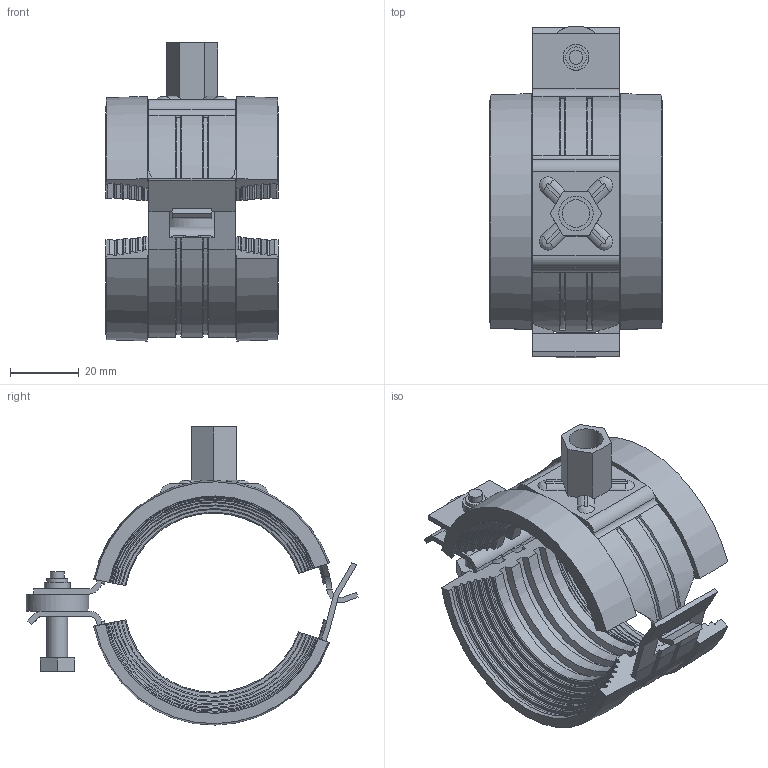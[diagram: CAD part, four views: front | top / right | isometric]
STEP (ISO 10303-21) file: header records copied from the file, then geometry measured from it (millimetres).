
FILE_DESCRIPTION(/* description */ (''),/* implementation_level */ '2;1');
FILE_NAME(/* name */ 'H:\Geberit-Teile\Export\Rohrschelle Si\stp\393299.stp',/* time_stamp */ '2017-02-14T11:11:48+01:00',/* author */ ('seihe2'),/* organization */ (''),/* preprocessor_version */ 'ST-DEVELOPER v15.2',/* originating_system */ 'Autodesk Inventor 2014',/* authorisation */ '');
FILE_SCHEMA (('AUTOMOTIVE_DESIGN { 1 0 10303 214 3 1 1 }'));
Length unit declared in the file: millimetre
Products named in the file (1): 393299
Bounding box: 50 x 96.31 x 86.49 mm (x, y, z)
Volume: 57575.1 mm3; surface area: 35143.6 mm2
Topology: 1 solids, 1 shells, 344 faces, 979 edges, 627 vertices
Faces by surface type: plane 98, cylinder 94, cone 84, torus 50, bspline 18
Full cylindrical faces by diameter (mm): 4 x1, 6 x2, 7.5 x1, 8 x1, 10 x1, 18.16 x1
Entity records: 11840 total; most frequent: CARTESIAN_POINT 2208, DIRECTION 2059, ORIENTED_EDGE 1950, EDGE_CURVE 972, AXIS2_PLACEMENT_3D 776, VERTEX_POINT 625, LINE 507, VECTOR 507
